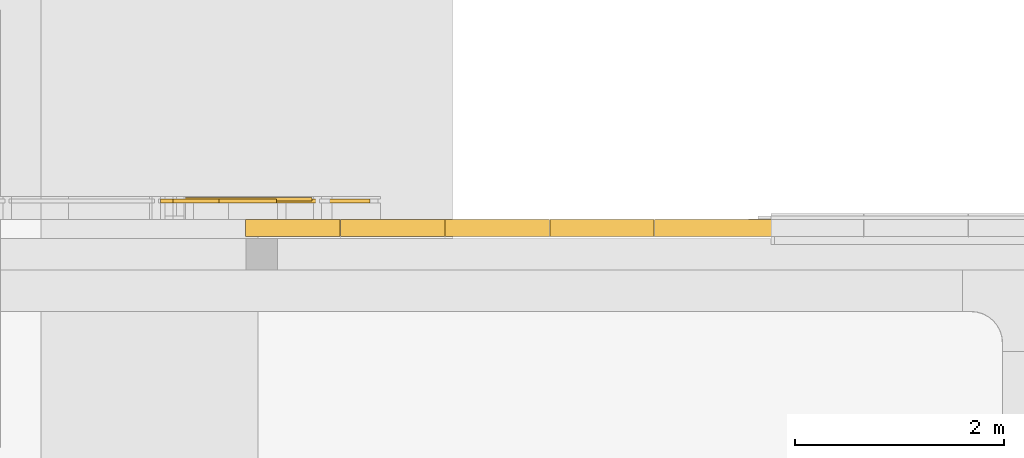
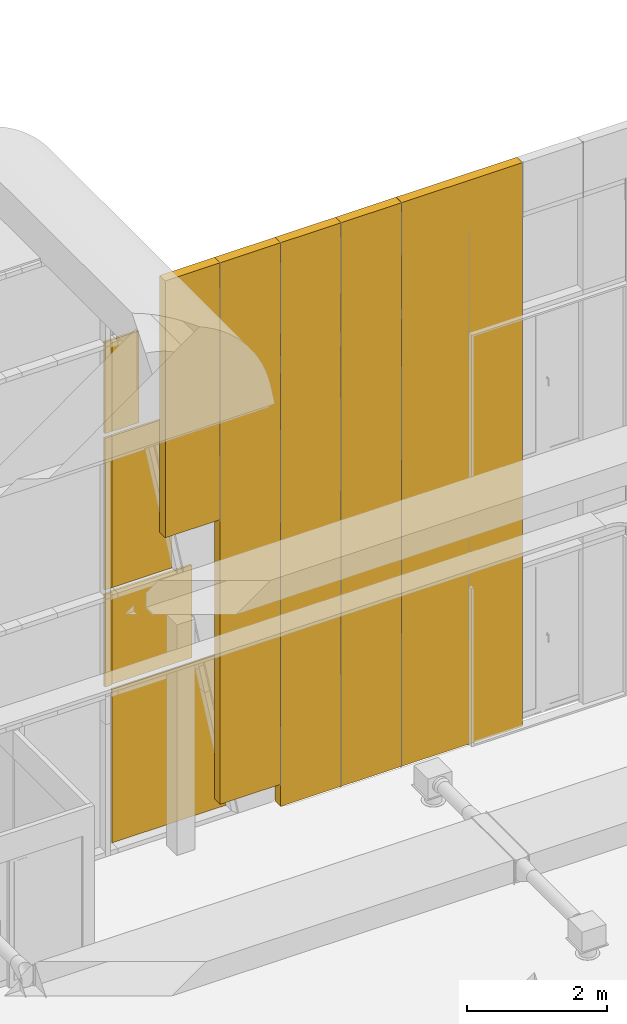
# One storey, part 231 of 302: 12 curtain walls, 2 elements without a shape of their own.
"""IFC2X3 building model written with IfcOpenShell, lengths in metres."""

from ifc_helpers import new_model, entity, si_unit, converted_unit, derived_unit, direction, frame, frame_2d, origin, place, context, subcontext, project, spatial, rectangle, extrude, material, layer, layer_set, layer_usage, type_object, element, aggregate, save


model = new_model("IFC2X3")

# Units and contexts
model_context = context("Model", 3, precision=1e-05, world=origin(), true_north=direction((6.12303176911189e-17, 1.0)))
body_context = subcontext(model_context, "Body", "Model", "MODEL_VIEW")
ifc_project = project(units=[si_unit("LENGTHUNIT", "METRE"), si_unit("AREAUNIT", "SQUARE_METRE"), si_unit("VOLUMEUNIT", "CUBIC_METRE"), converted_unit("PLANEANGLEUNIT", "DEGREE", entity("IfcRatioMeasure", 0.0174532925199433), si_unit("PLANEANGLEUNIT", "RADIAN"), dimensions=[0, 0, 0, 0, 0, 0, 0]), si_unit("MASSUNIT", "GRAM", prefix="KILO"), derived_unit("MASSDENSITYUNIT", [(si_unit("MASSUNIT", "GRAM", prefix="KILO"), 1), (si_unit("LENGTHUNIT", "METRE"), -3)]), derived_unit("MOMENTOFINERTIAUNIT", [(si_unit("LENGTHUNIT", "METRE"), 4)]), si_unit("TIMEUNIT", "SECOND"), si_unit("FREQUENCYUNIT", "HERTZ"), si_unit("THERMODYNAMICTEMPERATUREUNIT", "DEGREE_CELSIUS"), derived_unit("THERMALTRANSMITTANCEUNIT", [(si_unit("MASSUNIT", "GRAM", prefix="KILO"), 1), (si_unit("THERMODYNAMICTEMPERATUREUNIT", "KELVIN"), -1), (si_unit("TIMEUNIT", "SECOND"), -3)]), derived_unit("VOLUMETRICFLOWRATEUNIT", [(si_unit("LENGTHUNIT", "METRE"), 3), (si_unit("TIMEUNIT", "SECOND"), -1)]), si_unit("ELECTRICCURRENTUNIT", "AMPERE"), si_unit("ELECTRICVOLTAGEUNIT", "VOLT"), si_unit("POWERUNIT", "WATT"), si_unit("FORCEUNIT", "NEWTON", prefix="KILO"), si_unit("ILLUMINANCEUNIT", "LUX"), si_unit("LUMINOUSFLUXUNIT", "LUMEN"), si_unit("LUMINOUSINTENSITYUNIT", "CANDELA"), derived_unit("USERDEFINED", [(si_unit("MASSUNIT", "GRAM", prefix="KILO"), -1), (si_unit("LENGTHUNIT", "METRE"), -2), (si_unit("TIMEUNIT", "SECOND"), 3), (si_unit("LUMINOUSFLUXUNIT", "LUMEN"), 1)]), derived_unit("LINEARVELOCITYUNIT", [(si_unit("LENGTHUNIT", "METRE"), 1), (si_unit("TIMEUNIT", "SECOND"), -1)]), si_unit("PRESSUREUNIT", "PASCAL"), derived_unit("USERDEFINED", [(si_unit("LENGTHUNIT", "METRE"), -2), (si_unit("MASSUNIT", "GRAM", prefix="KILO"), 1), (si_unit("TIMEUNIT", "SECOND"), -2)]), derived_unit("LINEARFORCEUNIT", [(si_unit("MASSUNIT", "GRAM", prefix="KILO"), 1), (si_unit("LENGTHUNIT", "METRE"), 1), (si_unit("TIMEUNIT", "SECOND"), -2), (si_unit("LENGTHUNIT", "METRE"), -1)]), derived_unit("PLANARFORCEUNIT", [(si_unit("MASSUNIT", "GRAM", prefix="KILO"), 1), (si_unit("LENGTHUNIT", "METRE"), 1), (si_unit("TIMEUNIT", "SECOND"), -2), (si_unit("LENGTHUNIT", "METRE"), -2)])], contexts=[model_context])

# Site, building, storey
site_placement = place(None, origin())
site = spatial("IfcSite", under=ifc_project, at=site_placement, Name="Default", CompositionType="ELEMENT")
building_placement = place(site_placement, origin())
building = spatial("IfcBuilding", under=site, at=building_placement, CompositionType="ELEMENT")
storey_placement = place(building_placement, frame((0.0, 0.0, -1.3)))
storey = spatial("IfcBuildingStorey", under=building, at=storey_placement, Name="00_EG", CompositionType="ELEMENT", Elevation=-1.3)

# Curtain walls
curtain_wall_type_1 = type_object("IfcCurtainWallType", Name="Fassade:Curtain Wall 1", PredefinedType="NOTDEFINED")
curtain_wall_1_placement = place(storey_placement, frame((0.0, 0.0, 1.3)))
curtain_wall_1 = element("IfcCurtainWall", 1, at=curtain_wall_1_placement, inside=storey, type_object=curtain_wall_type_1, Name="Fassade:Curtain Wall 1", ObjectType="Fassade:Curtain Wall 1")
ifc_material_1 = material(Name="Prepainted_Steel-ArcelorMittal_Construction_HAIRULTRA-35-CORAL-4309-[RAL_3000]")
ifc_layer_1 = layer(ifc_material_1, 0.015)
ifc_material_2 = material(Name="ArcelorMittal-MineralWool")
ifc_layer_2 = layer(ifc_material_2, 0.13)
ifc_material_3 = material(Name="Prepainted_Steel-ArcelorMittal_Construction_INTÉRIEUR-12-WHITE-912")
ifc_layer_3 = layer(ifc_material_3, 0.015)
ifc_layer_set_1 = layer_set([ifc_layer_1, ifc_layer_2, ifc_layer_3], Name="Fassade:Sandwichpaneele 16cm")
ifc_layer_usage_1 = layer_usage(ifc_layer_set_1, "AXIS2", "POSITIVE", -0.08)
curtain_wall_type_2 = type_object("IfcCurtainWallType", Name="Basiswand:Sandwichpaneele d = 16cm aussen", PredefinedType="NOTDEFINED", material=ifc_layer_set_1)
curtain_wall_2_placement = place(storey_placement, frame((-223.612611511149, 45.658088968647, 1.27), z_axis=(0.0, 0.0, 1.0), x_axis=(-1.0, 0.0, 0.0)))
curtain_wall_2 = element("IfcCurtainWall", 2, at=curtain_wall_2_placement, type_object=curtain_wall_type_2, material=ifc_layer_usage_1, Name="Basiswand:Sandwichpaneele d = 16cm aussen", ObjectType="Basiswand:Sandwichpaneele d = 16cm aussen", context=body_context, shape_type="SweptSolid", body=[
    extrude(rectangle(XDim=0.994999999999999, YDim=0.159999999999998, at=frame_2d((0.4975, 0.0), x_axis=(-1.0, 0.0))), origin(), (0.0, 0.0, 1.0), 9.8509),
])
ifc_layer_usage_2 = layer_usage(ifc_layer_set_1, "AXIS2", "POSITIVE", -0.08)
curtain_wall_3_placement = place(storey_placement, frame((-224.612611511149, 45.658088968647, 1.26999999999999), z_axis=(0.0, 0.0, 1.0), x_axis=(-1.0, 0.0, 0.0)))
curtain_wall_3 = element("IfcCurtainWall", 3, at=curtain_wall_3_placement, type_object=curtain_wall_type_2, material=ifc_layer_usage_2, Name="Basiswand:Sandwichpaneele d = 16cm aussen", ObjectType="Basiswand:Sandwichpaneele d = 16cm aussen", context=body_context, shape_type="SweptSolid", body=[
    extrude(rectangle(XDim=0.997500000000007, YDim=0.159999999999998, at=frame_2d((0.498750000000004, 0.0), x_axis=(-1.0, 0.0))), origin(), (0.0, 0.0, 1.0), 9.8509),
])
ifc_layer_usage_3 = layer_usage(ifc_layer_set_1, "AXIS2", "POSITIVE", -0.08)
curtain_wall_4_placement = place(storey_placement, frame((-225.612611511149, 45.658088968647, 1.65694079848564), z_axis=(0.0, 0.0, 1.0), x_axis=(-1.0, 0.0, 0.0)))
curtain_wall_4 = element("IfcCurtainWall", 4, at=curtain_wall_4_placement, type_object=curtain_wall_type_2, material=ifc_layer_usage_3, Name="Basiswand:Sandwichpaneele d = 16cm aussen", ObjectType="Basiswand:Sandwichpaneele d = 16cm aussen", context=body_context, shape_type="SweptSolid", body=[
    extrude(rectangle(XDim=0.997500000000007, YDim=0.159999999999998, at=frame_2d((0.498750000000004, 0.0), x_axis=(-1.0, 0.0))), origin(), (0.0, 0.0, 1.0), 9.46395920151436),
])
ifc_layer_usage_4 = layer_usage(ifc_layer_set_1, "AXIS2", "POSITIVE", -0.08)
curtain_wall_5_placement = place(storey_placement, frame((-226.612611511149, 45.658088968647, 6.63175299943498), z_axis=(0.0, 0.0, 1.0), x_axis=(-1.0, 0.0, 0.0)))
curtain_wall_5 = element("IfcCurtainWall", 5, at=curtain_wall_5_placement, type_object=curtain_wall_type_2, material=ifc_layer_usage_4, Name="Basiswand:Sandwichpaneele d = 16cm aussen", ObjectType="Basiswand:Sandwichpaneele d = 16cm aussen", context=body_context, shape_type="SweptSolid", body=[
    extrude(rectangle(XDim=0.902375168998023, YDim=0.159999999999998, at=frame_2d((0.451187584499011, 0.0), x_axis=(-1.0, 0.0))), origin(), (0.0, 0.0, 1.0), 4.48914700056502),
])
ifc_layer_usage_5 = layer_usage(ifc_layer_set_1, "AXIS2", "POSITIVE", -0.08)
curtain_wall_6_placement = place(storey_placement, frame((-221.612611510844, 45.658088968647, 1.27), z_axis=(0.0, 0.0, 1.0), x_axis=(-1.0, 0.0, 0.0)))
curtain_wall_6 = element("IfcCurtainWall", 6, at=curtain_wall_6_placement, type_object=curtain_wall_type_2, material=ifc_layer_usage_5, Name="Basiswand:Sandwichpaneele d = 16cm aussen", ObjectType="Basiswand:Sandwichpaneele d = 16cm aussen", context=body_context, shape_type="SweptSolid", body=[
    extrude(rectangle(XDim=1.9950000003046, YDim=0.159999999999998, at=frame_2d((0.997500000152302, 0.0), x_axis=(-1.0, 0.0))), origin(), (0.0, 0.0, 1.0), 9.8509),
])
aggregate(curtain_wall_1, [curtain_wall_2, curtain_wall_3, curtain_wall_4, curtain_wall_5, curtain_wall_6])

curtain_wall_type_3 = type_object("IfcCurtainWallType", Name="Fassade:Glasfassade", PredefinedType="NOTDEFINED")
curtain_wall_7_placement = place(storey_placement, frame((0.0, 0.0, 1.3)))
curtain_wall_7 = element("IfcCurtainWall", 7, at=curtain_wall_7_placement, inside=storey, type_object=curtain_wall_type_3, Name="Fassade:Glasfassade", ObjectType="Fassade:Glasfassade")
ifc_material_4 = material(Name="Glass")
ifc_layer_4 = layer(ifc_material_4, 0.035)
ifc_layer_set_2 = layer_set([ifc_layer_4], Name="Fassade:Sandwichpaneele 16cm")
ifc_layer_usage_6 = layer_usage(ifc_layer_set_2, "AXIS2", "POSITIVE", -0.0175)
curtain_wall_type_4 = type_object("IfcCurtainWallType", Name="Basiswand:Glass", PredefinedType="NOTDEFINED", material=ifc_layer_set_2)
curtain_wall_8_placement = place(storey_placement, frame((-226.326002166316, 45.915588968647, 1.35), z_axis=(0.0, 0.0, 1.0), x_axis=(-1.0, 0.0, 0.0)))
curtain_wall_8 = element("IfcCurtainWall", 8, at=curtain_wall_8_placement, type_object=curtain_wall_type_4, material=ifc_layer_usage_6, Name="Basiswand:Glass", ObjectType="Basiswand:Glass", context=body_context, shape_type="SweptSolid", body=[
    extrude(rectangle(XDim=1.8819675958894, YDim=0.034999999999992, at=frame_2d((0.940983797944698, 0.0), x_axis=(-1.0, 0.0))), origin(), (0.0, 0.0, 1.0), 2.68),
])
ifc_layer_usage_7 = layer_usage(ifc_layer_set_2, "AXIS2", "POSITIVE", -0.0175)
curtain_wall_9_placement = place(storey_placement, frame((-226.879442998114, 45.933088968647, 4.10999999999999), z_axis=(0.0, 0.0, 1.0), x_axis=(-1.0, 0.0, 0.0)))
curtain_wall_9 = element("IfcCurtainWall", 9, at=curtain_wall_9_placement, type_object=curtain_wall_type_4, material=ifc_layer_usage_7, Name="Basiswand:Glass", ObjectType="Basiswand:Glass", context=body_context, shape_type="SweptSolid", body=[
    extrude(rectangle(XDim=1.32852676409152, YDim=0.034999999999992, at=frame_2d((0.664263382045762, 0.0), x_axis=(-1.0, 0.0))), origin(), (0.0, 0.0, 1.0), 1.62000000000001),
])
ifc_layer_usage_8 = layer_usage(ifc_layer_set_2, "AXIS2", "POSITIVE", -0.0175)
curtain_wall_10_placement = place(storey_placement, frame((-228.207969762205, 45.915588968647, 4.10999999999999), z_axis=(0.0, 0.0, 1.0), x_axis=(-1.0, 0.0, 0.0)))
curtain_wall_10 = element("IfcCurtainWall", 10, at=curtain_wall_10_placement, type_object=curtain_wall_type_4, material=ifc_layer_usage_8, Name="Basiswand:Glass", ObjectType="Basiswand:Glass", context=body_context, shape_type="SweptSolid", body=[
    extrude(rectangle(XDim=0.119999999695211, YDim=0.034999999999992, at=frame_2d((0.0599999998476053, 0.0), x_axis=(-1.0, 0.0))), origin(), (0.0, 0.0, 1.0), 1.62),
])
ifc_layer_usage_9 = layer_usage(ifc_layer_set_2, "AXIS2", "POSITIVE", -0.0175)
curtain_wall_11_placement = place(storey_placement, frame((-227.220330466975, 45.915588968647, 5.80999999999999), z_axis=(0.0, 0.0, 1.0), x_axis=(-1.0, 0.0, 0.0)))
curtain_wall_11 = element("IfcCurtainWall", 11, at=curtain_wall_11_placement, type_object=curtain_wall_type_4, material=ifc_layer_usage_9, Name="Basiswand:Glass", ObjectType="Basiswand:Glass", context=body_context, shape_type="SweptSolid", body=[
    extrude(rectangle(XDim=0.987639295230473, YDim=0.034999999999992, at=frame_2d((0.493819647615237, 0.0), x_axis=(-1.0, 0.0))), origin(), (0.0, 0.0, 1.0), 2.65),
])
ifc_layer_usage_10 = layer_usage(ifc_layer_set_2, "AXIS2", "POSITIVE", -0.0175)
curtain_wall_12_placement = place(storey_placement, frame((-228.207969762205, 45.915588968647, 5.81), z_axis=(0.0, 0.0, 1.0), x_axis=(-1.0, 0.0, 0.0)))
curtain_wall_12 = element("IfcCurtainWall", 12, at=curtain_wall_12_placement, type_object=curtain_wall_type_4, material=ifc_layer_usage_10, Name="Basiswand:Glass", ObjectType="Basiswand:Glass", context=body_context, shape_type="SweptSolid", body=[
    extrude(rectangle(XDim=0.119999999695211, YDim=0.034999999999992, at=frame_2d((0.0599999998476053, 0.0), x_axis=(-1.0, 0.0))), origin(), (0.0, 0.0, 1.0), 2.64999999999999),
])
ifc_layer_usage_11 = layer_usage(ifc_layer_set_2, "AXIS2", "POSITIVE", -0.0175)
curtain_wall_13_placement = place(storey_placement, frame((-227.767755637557, 45.915588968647, 8.53999999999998), z_axis=(0.0, 0.0, 1.0), x_axis=(-1.0, 0.0, 0.0)))
curtain_wall_13 = element("IfcCurtainWall", 13, at=curtain_wall_13_placement, type_object=curtain_wall_type_4, material=ifc_layer_usage_11, Name="Basiswand:Glass", ObjectType="Basiswand:Glass", context=body_context, shape_type="SweptSolid", body=[
    extrude(rectangle(XDim=0.440214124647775, YDim=0.034999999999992, at=frame_2d((0.220107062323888, 0.0), x_axis=(-1.0, 0.0))), origin(), (0.0, 0.0, 1.0), 1.60000000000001),
])
ifc_layer_usage_12 = layer_usage(ifc_layer_set_2, "AXIS2", "POSITIVE", -0.0175)
curtain_wall_14_placement = place(storey_placement, frame((-228.207969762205, 45.915588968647, 8.53999999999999), z_axis=(0.0, 0.0, 1.0), x_axis=(-1.0, 0.0, 0.0)))
curtain_wall_14 = element("IfcCurtainWall", 14, at=curtain_wall_14_placement, type_object=curtain_wall_type_4, material=ifc_layer_usage_12, Name="Basiswand:Glass", ObjectType="Basiswand:Glass", context=body_context, shape_type="SweptSolid", body=[
    extrude(rectangle(XDim=0.119999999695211, YDim=0.034999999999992, at=frame_2d((0.0599999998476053, 0.0), x_axis=(-1.0, 0.0))), origin(), (0.0, 0.0, 1.0), 1.60000000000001),
])
aggregate(curtain_wall_7, [curtain_wall_8, curtain_wall_9, curtain_wall_10, curtain_wall_11, curtain_wall_12, curtain_wall_13, curtain_wall_14])

save(model, "model.ifc")
